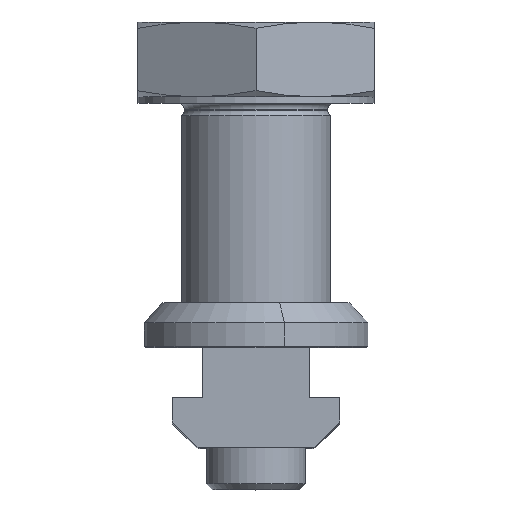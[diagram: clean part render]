
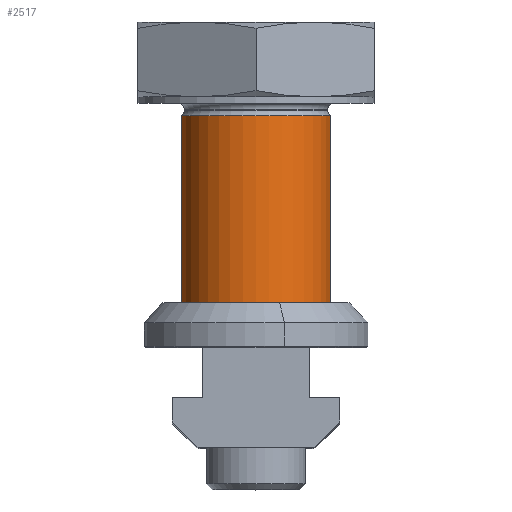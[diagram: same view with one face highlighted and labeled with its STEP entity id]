
A CAD part, top view. The second image highlights one B-rep face of the part: STEP entity #2517.
In plain terms, the highlighted cylindrical face has radius 6 mm (diameter 12 mm), a partial arc.
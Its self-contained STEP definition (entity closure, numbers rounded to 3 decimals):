
#123 = ORIENTED_EDGE ( 'NONE', *, *, #3378, .T. ) ;
#395 = DIRECTION ( 'NONE',  ( 1., 0., 0. ) ) ;
#458 = VERTEX_POINT ( 'NONE', #3674 ) ;
#494 = CARTESIAN_POINT ( 'NONE',  ( -6., 18.6, 22. ) ) ;
#510 = DIRECTION ( 'NONE',  ( 0., -1., 0. ) ) ;
#799 = AXIS2_PLACEMENT_3D ( 'NONE', #3296, #4312, #395 ) ;
#817 = DIRECTION ( 'NONE',  ( 1., 0., 0. ) ) ;
#866 = AXIS2_PLACEMENT_3D ( 'NONE', #1146, #1812, #817 ) ;
#1146 = CARTESIAN_POINT ( 'NONE',  ( 0., 18.6, 22. ) ) ;
#1151 = DIRECTION ( 'NONE',  ( 1., 0., 0. ) ) ;
#1158 = CARTESIAN_POINT ( 'NONE',  ( 6., -11.4, 22. ) ) ;
#1162 = EDGE_LOOP ( 'NONE', ( #2506, #123, #2990, #1620 ) ) ;
#1307 = EDGE_CURVE ( 'NONE', #2954, #3883, #3308, .T. ) ;
#1384 = CIRCLE ( 'NONE', #866, 6. ) ;
#1536 = CARTESIAN_POINT ( 'NONE',  ( 6., 3.6, 22. ) ) ;
#1620 = ORIENTED_EDGE ( 'NONE', *, *, #1307, .F. ) ;
#1812 = DIRECTION ( 'NONE',  ( 0., -1., 0. ) ) ;
#1883 = VECTOR ( 'NONE', #2256, 1000. ) ;
#2023 = VECTOR ( 'NONE', #2555, 1000. ) ;
#2027 = CIRCLE ( 'NONE', #799, 6. ) ;
#2256 = DIRECTION ( 'NONE',  ( 0., -1., 0. ) ) ;
#2506 = ORIENTED_EDGE ( 'NONE', *, *, #2855, .T. ) ;
#2517 = ADVANCED_FACE ( 'NONE', ( #3893 ), #2910, .T. ) ;
#2555 = DIRECTION ( 'NONE',  ( 0., -1., 0. ) ) ;
#2855 = EDGE_CURVE ( 'NONE', #2954, #4111, #1384, .T. ) ;
#2870 = CARTESIAN_POINT ( 'NONE',  ( 0., -11.4, 22. ) ) ;
#2904 = CARTESIAN_POINT ( 'NONE',  ( -6., -11.4, 22. ) ) ;
#2910 = CYLINDRICAL_SURFACE ( 'NONE', #3005, 6. ) ;
#2954 = VERTEX_POINT ( 'NONE', #4287 ) ;
#2972 = EDGE_CURVE ( 'NONE', #3883, #458, #2027, .T. ) ;
#2990 = ORIENTED_EDGE ( 'NONE', *, *, #2972, .F. ) ;
#3005 = AXIS2_PLACEMENT_3D ( 'NONE', #2870, #510, #1151 ) ;
#3296 = CARTESIAN_POINT ( 'NONE',  ( 0., 3.6, 22. ) ) ;
#3308 = LINE ( 'NONE', #1158, #1883 ) ;
#3378 = EDGE_CURVE ( 'NONE', #4111, #458, #4353, .T. ) ;
#3674 = CARTESIAN_POINT ( 'NONE',  ( -6., 3.6, 22. ) ) ;
#3883 = VERTEX_POINT ( 'NONE', #1536 ) ;
#3893 = FACE_OUTER_BOUND ( 'NONE', #1162, .T. ) ;
#4111 = VERTEX_POINT ( 'NONE', #494 ) ;
#4287 = CARTESIAN_POINT ( 'NONE',  ( 6., 18.6, 22. ) ) ;
#4312 = DIRECTION ( 'NONE',  ( 0., -1., 0. ) ) ;
#4353 = LINE ( 'NONE', #2904, #2023 ) ;
